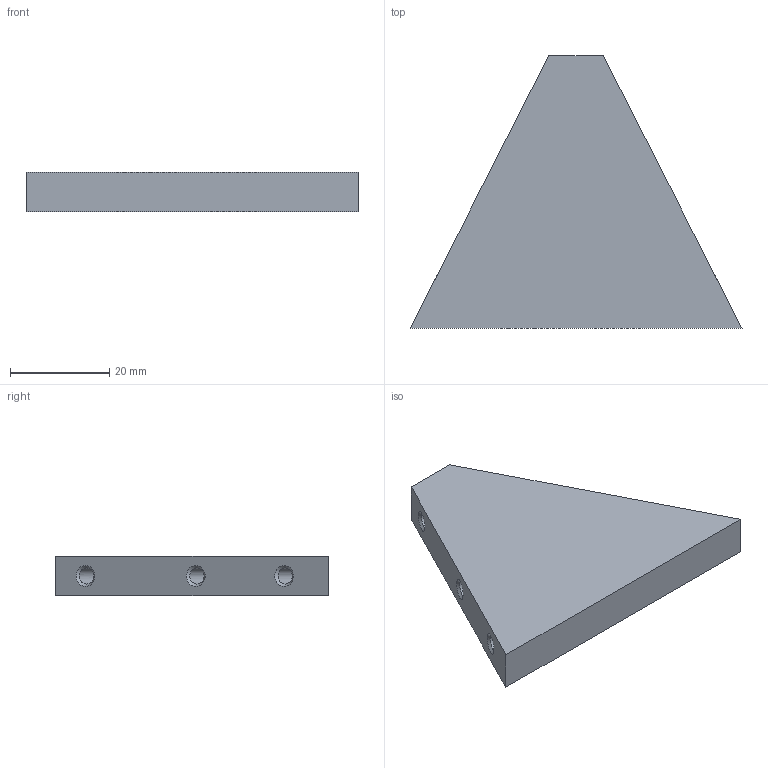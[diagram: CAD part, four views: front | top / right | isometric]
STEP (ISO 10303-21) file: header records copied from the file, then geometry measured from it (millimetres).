
FILE_DESCRIPTION(('STEP AP203'), '1');
FILE_NAME('ÒÏÏÔ1801.01.03.13.004 - Ïåðåìû÷êà', '', ('UNSPECIFIED'), ('UNSPECIFIED'), 'C3D Converter', 'C3D Toolkit', '');
FILE_SCHEMA(('CONFIG_CONTROL_DESIGN'));
Length unit declared in the file: millimetre
Products named in the file (1): ТППФ1801.01.03.13.004
Bounding box: 67 x 55 x 8 mm (x, y, z)
Volume: 16642.2 mm3; surface area: 6474.3 mm2
Topology: 1 solids, 1 shells, 32 faces, 66 edges, 36 vertices
Faces by surface type: cone 16, cylinder 10, plane 6
Full cylindrical faces by diameter (mm): 3.242 x6
Entity records: 1098 total; most frequent: CARTESIAN_POINT 236, DIRECTION 122, ORIENTED_EDGE 92, AXIS2_PLACEMENT_3D 55, EDGE_LOOP 50, EDGE_CURVE 46, COLOUR_RGB 33, FILL_AREA_STYLE_COLOUR 33
